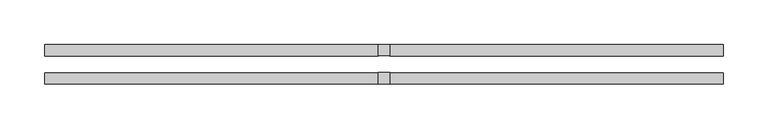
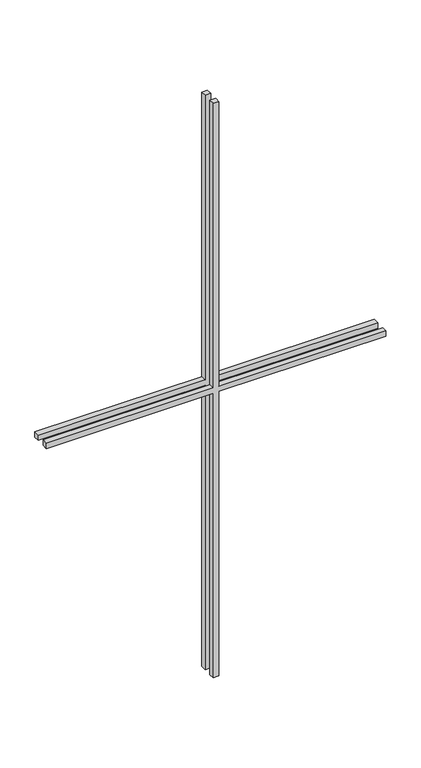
"""IFC4 building model written with IfcOpenShell, lengths in millimetres: proxy geometry, M_Vzor mezilehlého svislého vlysu_2x2 : M_Vzor mezilehlého svislého vlysu_2x2."""

from ifc_helpers import new_model, si_unit, frame, origin, place, context, project, spatial, polyline, outline, extrude, source, transform, mapped, element, save


def generic_models_afe3c14d(model_context):
    return source(origin(), model_context, "Body", "SweptSolid", [
        extrude(outline(polyline([(686.5, -6.35), (686.5, -380.15), (673.8, -380.15), (673.8, -6.35), (0.0, -6.35), (0.0, 6.35), (673.8, 6.35), (673.8, 380.15), (686.5, 380.15), (686.5, 6.35), (1360.3, 6.35), (1360.3, -6.35), (686.5, -6.35)])), frame((0.0, -22.225, 0.0), z_axis=(0.0, 1.0, 0.0), x_axis=(0.0, 0.0, 1.0)), (0.0, 0.0, 1.0), 12.7),
        extrude(outline(polyline([(686.5, -6.35), (686.5, -380.15), (673.8, -380.15), (673.8, -6.35), (0.0, -6.35), (0.0, 6.35), (673.8, 6.35), (673.8, 380.15), (686.5, 380.15), (686.5, 6.35), (1360.3, 6.35), (1360.3, -6.35), (686.5, -6.35)])), frame((0.0, 9.525, 0.0), z_axis=(0.0, 1.0, 0.0), x_axis=(0.0, 0.0, 1.0)), (0.0, 0.0, 1.0), 12.7),
    ])


if __name__ == "__main__":
    model = new_model("IFC4")
    model_context = context("Model", 3, world=origin())
    ifc_project = project(units=[si_unit("LENGTHUNIT", "METRE", prefix="MILLI")], contexts=[model_context])
    site = spatial("IfcSite", under=ifc_project)
    building = spatial("IfcBuilding", under=site)
    placement = place(None, origin())
    generic_models_shape = generic_models_afe3c14d(model_context)
    element("IfcBuildingElementProxy", 1, Name="M_Vzor mezilehlého svislého vlysu_2x2 : M_Vzor mezilehlého svislého vlysu_2x2", ObjectType="M_Vzor mezilehlého svislého vlysu_2x2 : M_Vzor mezilehlého svislého vlysu_2x2", at=placement, inside=building, context=model_context, shape_type="MappedRepresentation", body=[
        mapped(generic_models_shape, transform((0.0, 0.0, 0.0), x_axis=(1.0, 0.0, 0.0), y_axis=(0.0, 1.0, 0.0), z_axis=(0.0, 0.0, 1.0))),
    ])
    save(model, "model.ifc")
